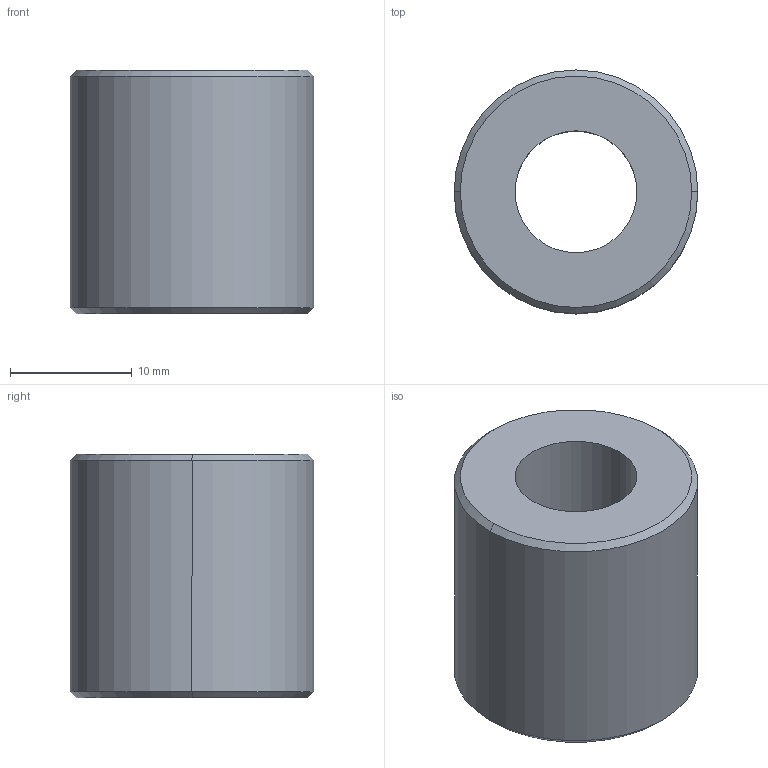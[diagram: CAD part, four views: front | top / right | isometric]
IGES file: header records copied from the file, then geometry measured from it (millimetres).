
Start section: 3D InterOp IGES (Version 21 0 1), Spatial Corp. Copyright (c) 1999-2007.
Global section: file name: TMON-10L.igs; native system: Spatial Corp.; preprocessor: 3D InterOp GENERIC/IGES 3.0; author: Noname; organization: Noname; date: 20220204.162359; units: millimetre
Bounding box: 20 x 20 x 20 mm (x, y, z)
Surface area: 2318.7 mm2 (no closed solid volume)
Topology: 0 solids, 0 shells, 10 faces, 40 edges, 40 vertices
Faces by surface type: revolution 8, extrusion 2
